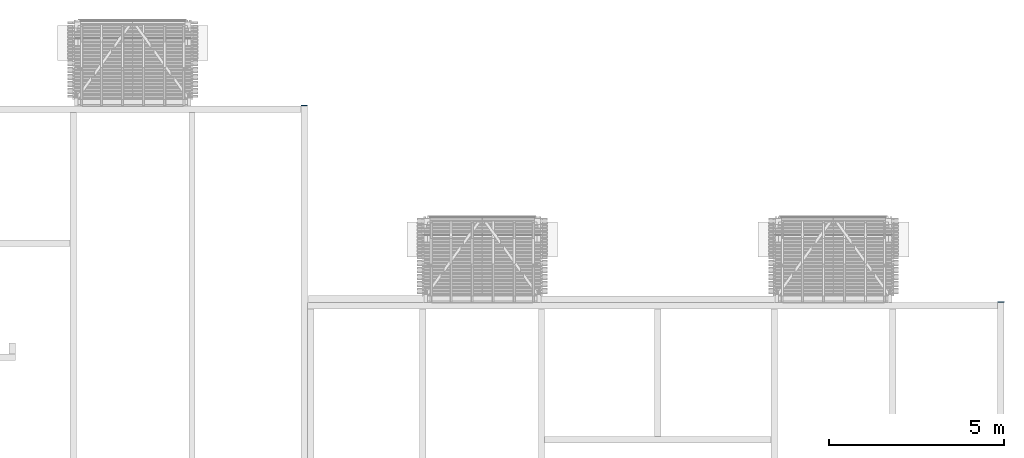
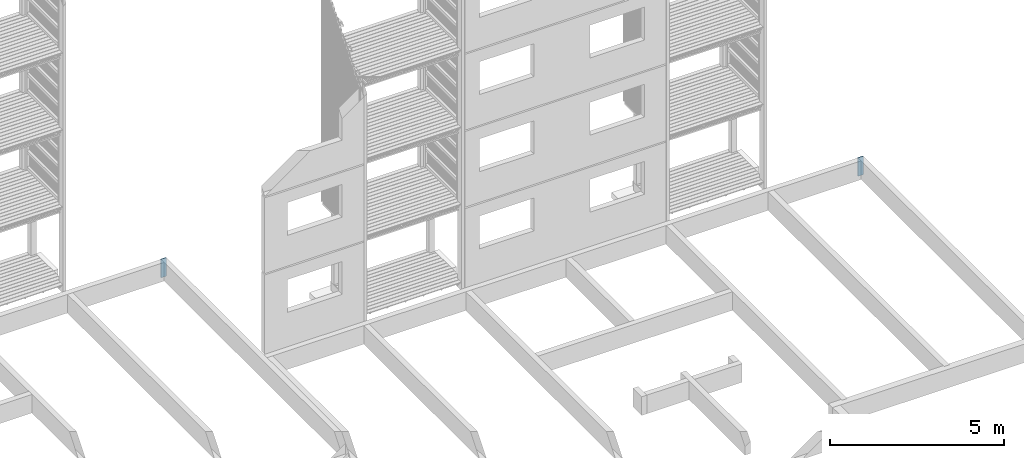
# One storey, part 6 of 182: 2 walls.
"""IFC2X3 building model written with IfcOpenShell, lengths in metres."""

from ifc_helpers import new_model, si_unit, frame, frame_2d, origin, place, context, project, spatial, rectangle, extrude, element, save


model = new_model("IFC2X3")

# Units and contexts
model_context = context("Model", 3, precision=1e-06, world=origin())
ifc_project = project(units=[si_unit("LENGTHUNIT", "METRE"), si_unit("PLANEANGLEUNIT", "RADIAN")], contexts=[model_context])

# Site, building, storey
site = spatial("IfcSite", under=ifc_project, CompositionType="ELEMENT")
building = spatial("IfcBuilding", under=site, CompositionType="ELEMENT")
storey = spatial("IfcBuildingStorey", under=building, Name="vs", CompositionType="ELEMENT", Elevation=-0.85)

# Walls
placement = place(None, origin())
wall_1_placement = place(placement, frame((39.69999999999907, 10.470077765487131, -0.85), z_axis=(0.0, 0.0, 1.0), x_axis=(-1.0, 0.0, 0.0)))
element("IfcWall", 1, at=wall_1_placement, inside=storey, context=model_context, shape_type="SweptSolid", body=[
    extrude(rectangle(XDim=0.18, YDim=0.020000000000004, at=frame_2d((0.09, 0.010000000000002), x_axis=(1.0, 0.0)), kind="CURVE"), frame((0.0, -0.020000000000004, 0.0), z_axis=(0.0, 0.0, 1.0), x_axis=(1.0, 0.0, 0.0)), (0.0, 0.0, 1.0), 0.65),
])
wall_2_placement = place(placement, frame((59.54999999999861, 4.870077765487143, -0.85), z_axis=(0.0, 0.0, 1.0), x_axis=(-1.0, 0.0, 0.0)))
element("IfcWall", 2, at=wall_2_placement, inside=storey, context=model_context, shape_type="SweptSolid", body=[
    extrude(rectangle(XDim=0.18, YDim=0.020000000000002, at=frame_2d((0.09, 0.010000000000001), x_axis=(1.0, 0.0)), kind="CURVE"), frame((0.0, -0.020000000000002, 0.0), z_axis=(0.0, 0.0, 1.0), x_axis=(1.0, 0.0, 0.0)), (0.0, 0.0, 1.0), 0.65),
])

save(model, "model.ifc")
